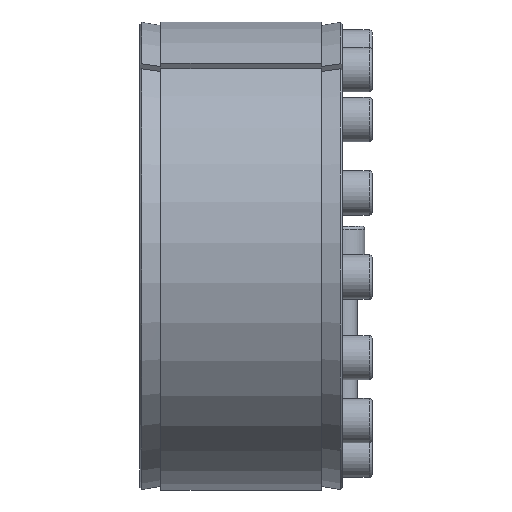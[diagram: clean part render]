
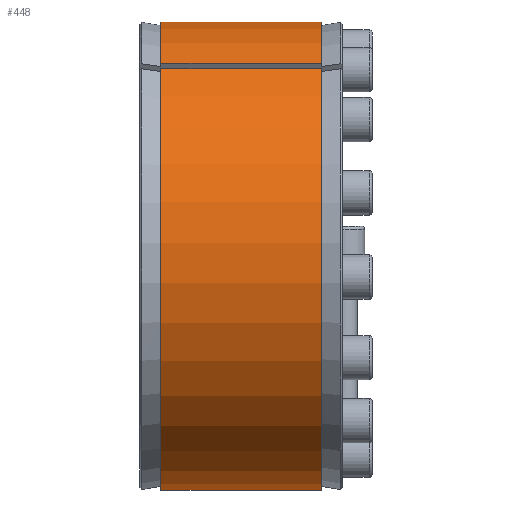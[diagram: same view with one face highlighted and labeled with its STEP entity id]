
A CAD part, left-side view. The second image highlights one B-rep face of the part: STEP entity #448.
In plain terms, the highlighted cylindrical face has radius 95 mm (diameter 190 mm), a partial arc.
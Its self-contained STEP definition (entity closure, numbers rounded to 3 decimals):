
#448 = ADVANCED_FACE( '', ( #787 ), #788, .T. );
#787 = FACE_OUTER_BOUND( '', #1124, .T. );
#788 = CYLINDRICAL_SURFACE( '', #1125, 95. );
#1124 = EDGE_LOOP( '', ( #1741, #1742, #1743, #1744 ) );
#1125 = AXIS2_PLACEMENT_3D( '', #1745, #1746, #1747 );
#1741 = ORIENTED_EDGE( '', *, *, #2301, .T. );
#1742 = ORIENTED_EDGE( '', *, *, #2265, .T. );
#1743 = ORIENTED_EDGE( '', *, *, #2324, .F. );
#1744 = ORIENTED_EDGE( '', *, *, #2408, .T. );
#1745 = CARTESIAN_POINT( '', ( 0., -60., 0. ) );
#1746 = DIRECTION( '', ( 0., 1., 0. ) );
#1747 = DIRECTION( '', ( 0., 0., -1. ) );
#2265 = EDGE_CURVE( '', #2585, #2583, #2586, .T. );
#2301 = EDGE_CURVE( '', #2651, #2585, #2652, .T. );
#2324 = EDGE_CURVE( '', #2693, #2583, #2694, .T. );
#2408 = EDGE_CURVE( '', #2693, #2651, #2836, .F. );
#2583 = VERTEX_POINT( '', #3025 );
#2585 = VERTEX_POINT( '', #3028 );
#2586 = LINE( '', #3029, #3030 );
#2651 = VERTEX_POINT( '', #3120 );
#2652 = CIRCLE( '', #3121, 95. );
#2693 = VERTEX_POINT( '', #3170 );
#2694 = CIRCLE( '', #3171, 95. );
#2836 = LINE( '', #3492, #3493 );
#3025 = CARTESIAN_POINT( '', ( -54.414, 8.5, 77.872 ) );
#3028 = CARTESIAN_POINT( '', ( -54.414, 73.5, 77.872 ) );
#3029 = CARTESIAN_POINT( '', ( -54.414, -60., 77.872 ) );
#3030 = VECTOR( '', #3630, 1000. );
#3120 = CARTESIAN_POINT( '', ( -57.246, 73.5, 75.815 ) );
#3121 = AXIS2_PLACEMENT_3D( '', #3707, #3708, #3709 );
#3170 = CARTESIAN_POINT( '', ( -57.246, 8.5, 75.815 ) );
#3171 = AXIS2_PLACEMENT_3D( '', #3766, #3767, #3768 );
#3492 = CARTESIAN_POINT( '', ( -57.246, -60., 75.815 ) );
#3493 = VECTOR( '', #3954, 1000. );
#3630 = DIRECTION( '', ( 0., -1., 0. ) );
#3707 = CARTESIAN_POINT( '', ( 0., 73.5, 0. ) );
#3708 = DIRECTION( '', ( 0., -1., 0. ) );
#3709 = DIRECTION( '', ( 0., 0., -1. ) );
#3766 = CARTESIAN_POINT( '', ( 0., 8.5, 0. ) );
#3767 = DIRECTION( '', ( 0., -1., 0. ) );
#3768 = DIRECTION( '', ( 0., 0., -1. ) );
#3954 = DIRECTION( '', ( 0., -1., 0. ) );
